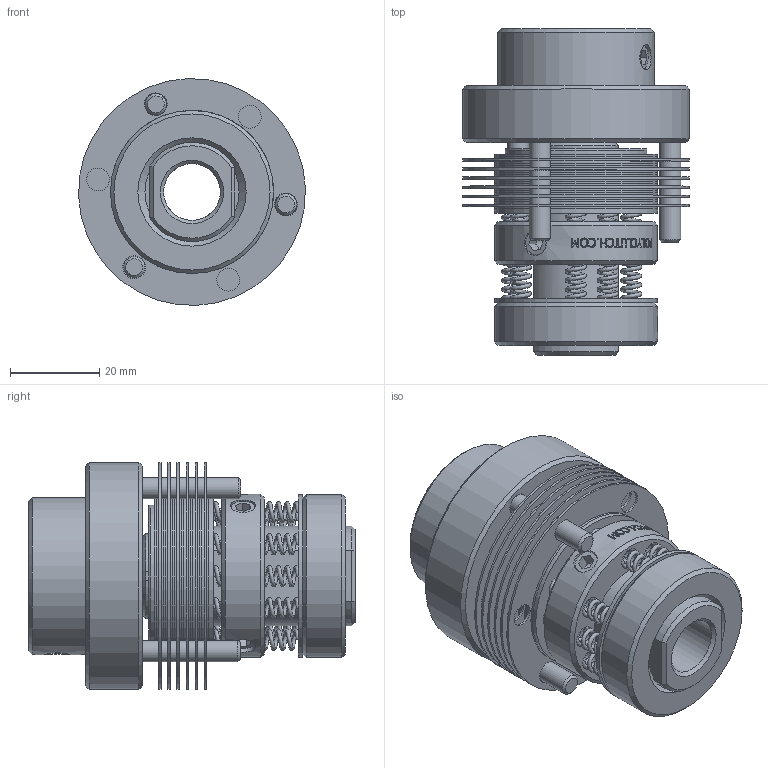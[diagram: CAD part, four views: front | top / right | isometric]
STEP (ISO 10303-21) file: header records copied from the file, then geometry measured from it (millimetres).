
FILE_DESCRIPTION((''),'2;1');
FILE_NAME('P:\Public\3-D CLUTCH ASSEMBLY FILES\SAS32\SAS32.stp','2011-07-26T12:53:54',('todlob'),(''),'Autodesk Inventor 2011','Autodesk Inventor 2011','');
FILE_SCHEMA(('AUTOMOTIVE_DESIGN { 1 0 10303 214 1 1 1 1 }'));
Length unit declared in the file: inch
Products named in the file (15): SAS32; S3211-8; S3217-6A; S3238; S3221; S3229; S3215; S3219; S3214A; S3240; Type A - Hexagon Socket Set Screw - Cup Point - Inch 1/4-28 UNF x 0.25; S3239; S3209; S3223; Hexagon Socket Set Screw - Flat Point - Inch 1/4-28 UNF x 0.38
Assembly tree (47 placements, depth 2):
  SAS32
    S3211-8
    S3217-6A
    S3238
    S3221  x12
    S3229  x6
    S3215  x6
    S3219
    S3214A  x9
    S3240
    Type A - Hexagon Socket Set Screw - Cup Point - Inch 1/4-28 UNF x 0.25  x2
    S3239
    S3209
    S3223  x3
    Hexagon Socket Set Screw - Flat Point - Inch 1/4-28 UNF x 0.38  x2
Bounding box: 50.75 x 73.03 x 50.75 mm (x, y, z)
Volume: 70812 mm3; surface area: 75881.3 mm2
Topology: 272 solids, 272 shells, 2514 faces, 5504 edges, 3633 vertices
Faces by surface type: plane 2108, cylinder 186, bspline 165, cone 36, sphere 17, torus 2
Full cylindrical faces by diameter (mm): 1.168 x36, 3.454 x1, 4.763 x6, 4.877 x9, 5.105 x36, 5.613 x4, 6.35 x4, 12.7 x2, 19.101 x1, 21.082 x1, 22.225 x1, 22.327 x12, 23.8 x6, 31.75 x1, 35.179 x1, 36.5 x21, 36.513 x1, 50.8 x7
Entity records: 63019 total; most frequent: CARTESIAN_POINT 34836, ORIENTED_EDGE 5514, DIRECTION 5273, EDGE_CURVE 2757, VECTOR 1987, LINE 1987, VERTEX_POINT 1850, EDGE_LOOP 1671
